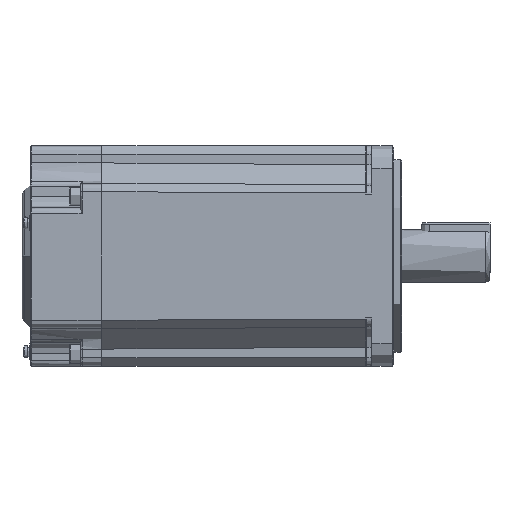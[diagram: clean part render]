
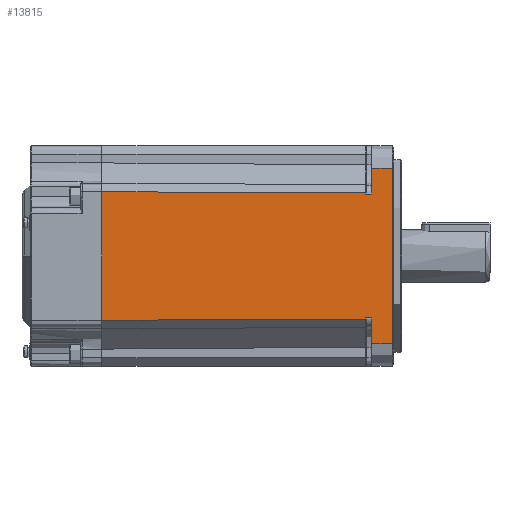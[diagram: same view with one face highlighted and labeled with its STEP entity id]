
A CAD part, front view. The second image highlights one B-rep face of the part: STEP entity #13815.
In plain terms, the highlighted planar face has unit normal (0, -1, 0).
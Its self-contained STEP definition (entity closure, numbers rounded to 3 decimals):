
#930 = ORIENTED_EDGE ( 'NONE', *, *, #108656, .T. ) ;
#3483 = VECTOR ( 'NONE', #50302, 1000. ) ;
#6088 = VERTEX_POINT ( 'NONE', #19994 ) ;
#7645 = CARTESIAN_POINT ( 'NONE',  ( 15.7, -40., 31.8 ) ) ;
#12362 = VECTOR ( 'NONE', #53524, 1000. ) ;
#12646 = LINE ( 'NONE', #49724, #118548 ) ;
#13336 = DIRECTION ( 'NONE',  ( 1., 0., 0. ) ) ;
#13815 = ADVANCED_FACE ( 'NONE', ( #137328 ), #52858, .T. ) ;
#18608 = DIRECTION ( 'NONE',  ( 1., 0., 0.003 ) ) ;
#19199 = EDGE_CURVE ( 'NONE', #140101, #157580, #156640, .T. ) ;
#19222 = VECTOR ( 'NONE', #118187, 1000. ) ;
#19780 = LINE ( 'NONE', #22014, #35309 ) ;
#19994 = CARTESIAN_POINT ( 'NONE',  ( 6.1, -40., -23.006 ) ) ;
#22014 = CARTESIAN_POINT ( 'NONE',  ( -204.637, -40., -31.8 ) ) ;
#23551 = DIRECTION ( 'NONE',  ( 0., 0., 1. ) ) ;
#30973 = DIRECTION ( 'NONE',  ( 1., 0., 0. ) ) ;
#31428 = ORIENTED_EDGE ( 'NONE', *, *, #167411, .T. ) ;
#32181 = LINE ( 'NONE', #211313, #176898 ) ;
#35309 = VECTOR ( 'NONE', #154198, 1000. ) ;
#37850 = LINE ( 'NONE', #203402, #94672 ) ;
#40843 = EDGE_CURVE ( 'NONE', #65850, #65974, #152898, .T. ) ;
#47236 = CARTESIAN_POINT ( 'NONE',  ( -204.686, -40., 23.641 ) ) ;
#49724 = CARTESIAN_POINT ( 'NONE',  ( -204.445, -40., -23.64 ) ) ;
#50302 = DIRECTION ( 'NONE',  ( 0., 0., -1. ) ) ;
#52021 = ORIENTED_EDGE ( 'NONE', *, *, #148759, .T. ) ;
#52858 = PLANE ( 'NONE',  #71815 ) ;
#53524 = DIRECTION ( 'NONE',  ( 0., 0., 1. ) ) ;
#53855 = VERTEX_POINT ( 'NONE', #106228 ) ;
#54704 = CARTESIAN_POINT ( 'NONE',  ( 8.3, -40., 22.5 ) ) ;
#59105 = DIRECTION ( 'NONE',  ( 0., 0., 1. ) ) ;
#64327 = CARTESIAN_POINT ( 'NONE',  ( 15.7, -40., 31.8 ) ) ;
#65823 = CARTESIAN_POINT ( 'NONE',  ( 8.3, -40., 31.8 ) ) ;
#65850 = VERTEX_POINT ( 'NONE', #65823 ) ;
#65974 = VERTEX_POINT ( 'NONE', #54704 ) ;
#69896 = CARTESIAN_POINT ( 'NONE',  ( 6.1, -40., -22.5 ) ) ;
#71815 = AXIS2_PLACEMENT_3D ( 'NONE', #167750, #151829, #85300 ) ;
#73074 = EDGE_CURVE ( 'NONE', #157580, #101858, #171615, .T. ) ;
#74059 = VERTEX_POINT ( 'NONE', #154728 ) ;
#79927 = VECTOR ( 'NONE', #23551, 1000. ) ;
#80985 = ORIENTED_EDGE ( 'NONE', *, *, #182881, .T. ) ;
#85300 = DIRECTION ( 'NONE',  ( -1., 0., 0. ) ) ;
#94672 = VECTOR ( 'NONE', #184689, 1000. ) ;
#97266 = ORIENTED_EDGE ( 'NONE', *, *, #201326, .T. ) ;
#100571 = ORIENTED_EDGE ( 'NONE', *, *, #143292, .T. ) ;
#101858 = VERTEX_POINT ( 'NONE', #206544 ) ;
#106142 = CARTESIAN_POINT ( 'NONE',  ( 6.1, -40., -22.5 ) ) ;
#106228 = CARTESIAN_POINT ( 'NONE',  ( 8.3, -40., -22.5 ) ) ;
#108381 = LINE ( 'NONE', #212355, #185981 ) ;
#108656 = EDGE_CURVE ( 'NONE', #131781, #160125, #139456, .T. ) ;
#110954 = CARTESIAN_POINT ( 'NONE',  ( 8.3, -40., 40. ) ) ;
#115159 = VECTOR ( 'NONE', #126758, 1000. ) ;
#117502 = LINE ( 'NONE', #154292, #19222 ) ;
#118187 = DIRECTION ( 'NONE',  ( -1., 0., 0. ) ) ;
#118548 = VECTOR ( 'NONE', #18608, 1000. ) ;
#120223 = VERTEX_POINT ( 'NONE', #176740 ) ;
#126758 = DIRECTION ( 'NONE',  ( -1., 0., 0.003 ) ) ;
#130767 = VERTEX_POINT ( 'NONE', #69896 ) ;
#131781 = VERTEX_POINT ( 'NONE', #209598 ) ;
#133818 = EDGE_CURVE ( 'NONE', #160125, #65850, #117502, .T. ) ;
#137328 = FACE_OUTER_BOUND ( 'NONE', #178963, .T. ) ;
#139456 = LINE ( 'NONE', #7645, #79927 ) ;
#140040 = VECTOR ( 'NONE', #194110, 1000. ) ;
#140085 = CARTESIAN_POINT ( 'NONE',  ( -89.7, -40., 23.295 ) ) ;
#140101 = VERTEX_POINT ( 'NONE', #213284 ) ;
#143292 = EDGE_CURVE ( 'NONE', #120223, #140101, #211400, .T. ) ;
#145437 = VECTOR ( 'NONE', #59105, 1000. ) ;
#148759 = EDGE_CURVE ( 'NONE', #130767, #53855, #32181, .T. ) ;
#151829 = DIRECTION ( 'NONE',  ( 0., -1., 0. ) ) ;
#152898 = LINE ( 'NONE', #110954, #140040 ) ;
#154198 = DIRECTION ( 'NONE',  ( 1., 0., 0. ) ) ;
#154292 = CARTESIAN_POINT ( 'NONE',  ( -204.637, -40., 31.8 ) ) ;
#154728 = CARTESIAN_POINT ( 'NONE',  ( 8.3, -40., -31.8 ) ) ;
#155202 = ORIENTED_EDGE ( 'NONE', *, *, #19199, .T. ) ;
#156515 = ORIENTED_EDGE ( 'NONE', *, *, #40843, .T. ) ;
#156640 = LINE ( 'NONE', #47236, #115159 ) ;
#157217 = ORIENTED_EDGE ( 'NONE', *, *, #133818, .T. ) ;
#157580 = VERTEX_POINT ( 'NONE', #140085 ) ;
#160125 = VERTEX_POINT ( 'NONE', #64327 ) ;
#161000 = LINE ( 'NONE', #106142, #145437 ) ;
#165916 = CARTESIAN_POINT ( 'NONE',  ( -89.7, -40., 40. ) ) ;
#167411 = EDGE_CURVE ( 'NONE', #53855, #74059, #37850, .T. ) ;
#167750 = CARTESIAN_POINT ( 'NONE',  ( -204.637, -40., 40. ) ) ;
#169166 = CARTESIAN_POINT ( 'NONE',  ( 6.1, -40., 23.005 ) ) ;
#171615 = LINE ( 'NONE', #165916, #3483 ) ;
#173553 = ORIENTED_EDGE ( 'NONE', *, *, #191854, .F. ) ;
#176740 = CARTESIAN_POINT ( 'NONE',  ( 6.1, -40., 22.5 ) ) ;
#176898 = VECTOR ( 'NONE', #13336, 1000. ) ;
#178963 = EDGE_LOOP ( 'NONE', ( #155202, #198463, #97266, #210545, #52021, #31428, #80985, #930, #157217, #156515, #173553, #100571 ) ) ;
#182881 = EDGE_CURVE ( 'NONE', #74059, #131781, #19780, .T. ) ;
#184689 = DIRECTION ( 'NONE',  ( 0., 0., -1. ) ) ;
#185981 = VECTOR ( 'NONE', #30973, 1000. ) ;
#191854 = EDGE_CURVE ( 'NONE', #120223, #65974, #108381, .T. ) ;
#194110 = DIRECTION ( 'NONE',  ( 0., 0., -1. ) ) ;
#196046 = EDGE_CURVE ( 'NONE', #6088, #130767, #161000, .T. ) ;
#198463 = ORIENTED_EDGE ( 'NONE', *, *, #73074, .T. ) ;
#201326 = EDGE_CURVE ( 'NONE', #101858, #6088, #12646, .T. ) ;
#203402 = CARTESIAN_POINT ( 'NONE',  ( 8.3, -40., 40. ) ) ;
#206544 = CARTESIAN_POINT ( 'NONE',  ( -89.7, -40., -23.295 ) ) ;
#209598 = CARTESIAN_POINT ( 'NONE',  ( 15.7, -40., -31.8 ) ) ;
#210545 = ORIENTED_EDGE ( 'NONE', *, *, #196046, .T. ) ;
#211313 = CARTESIAN_POINT ( 'NONE',  ( 6.3, -40., -22.5 ) ) ;
#211400 = LINE ( 'NONE', #169166, #12362 ) ;
#212355 = CARTESIAN_POINT ( 'NONE',  ( 6.3, -40., 22.5 ) ) ;
#213284 = CARTESIAN_POINT ( 'NONE',  ( 6.1, -40., 23.006 ) ) ;
